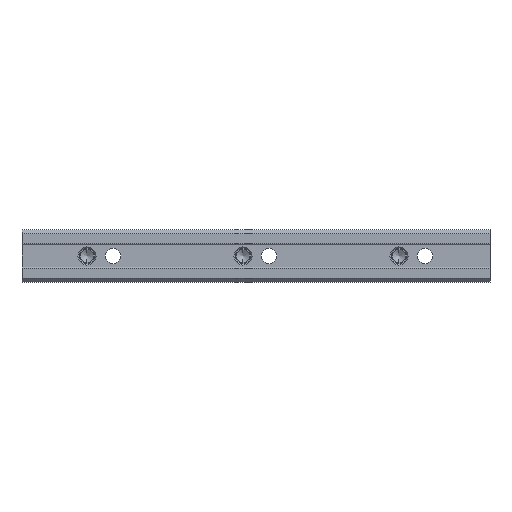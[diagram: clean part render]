
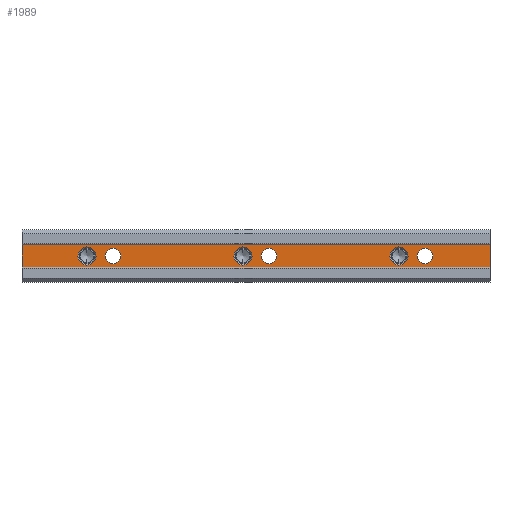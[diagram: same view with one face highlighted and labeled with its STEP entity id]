
A CAD part, front view. The second image highlights one B-rep face of the part: STEP entity #1989.
In plain terms, the highlighted planar face has unit normal (0, -1, 0).
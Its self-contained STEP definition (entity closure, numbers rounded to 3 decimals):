
#14 = CIRCLE ( 'NONE', #1023, 3. ) ;
#22 = EDGE_LOOP ( 'NONE', ( #1541, #1670 ) ) ;
#28 = ORIENTED_EDGE ( 'NONE', *, *, #1013, .T. ) ;
#32 = FACE_BOUND ( 'NONE', #1594, .T. ) ;
#36 = CARTESIAN_POINT ( 'NONE',  ( 0., 0.5, -4.25 ) ) ;
#62 = VERTEX_POINT ( 'NONE', #341 ) ;
#69 = DIRECTION ( 'NONE',  ( 0., 0., 1. ) ) ;
#71 = EDGE_LOOP ( 'NONE', ( #183, #1786 ) ) ;
#96 = CARTESIAN_POINT ( 'NONE',  ( 85., 0.5, 0. ) ) ;
#154 = DIRECTION ( 'NONE',  ( 0., 0., 1. ) ) ;
#164 = DIRECTION ( 'NONE',  ( 0., 0., -1. ) ) ;
#169 = DIRECTION ( 'NONE',  ( 0., 0., 1. ) ) ;
#173 = ORIENTED_EDGE ( 'NONE', *, *, #1146, .T. ) ;
#183 = ORIENTED_EDGE ( 'NONE', *, *, #1216, .T. ) ;
#184 = AXIS2_PLACEMENT_3D ( 'NONE', #354, #1521, #213 ) ;
#187 = CARTESIAN_POINT ( 'NONE',  ( 180., 0.5, 4.25 ) ) ;
#188 = ORIENTED_EDGE ( 'NONE', *, *, #758, .T. ) ;
#203 = DIRECTION ( 'NONE',  ( 0., 0., 1. ) ) ;
#204 = VERTEX_POINT ( 'NONE', #873 ) ;
#213 = DIRECTION ( 'NONE',  ( 0., 0., 1. ) ) ;
#222 = EDGE_CURVE ( 'NONE', #730, #1682, #299, .T. ) ;
#224 = AXIS2_PLACEMENT_3D ( 'NONE', #96, #785, #2094 ) ;
#229 = VERTEX_POINT ( 'NONE', #1024 ) ;
#234 = LINE ( 'NONE', #1397, #964 ) ;
#237 = EDGE_LOOP ( 'NONE', ( #1154, #852 ) ) ;
#266 = VECTOR ( 'NONE', #1255, 1000. ) ;
#269 = AXIS2_PLACEMENT_3D ( 'NONE', #2088, #934, #596 ) ;
#270 = CARTESIAN_POINT ( 'NONE',  ( 155., 0.5, 0. ) ) ;
#282 = CARTESIAN_POINT ( 'NONE',  ( 95., 0.5, -3. ) ) ;
#296 = AXIS2_PLACEMENT_3D ( 'NONE', #187, #1528, #656 ) ;
#297 = ORIENTED_EDGE ( 'NONE', *, *, #561, .F. ) ;
#299 = CIRCLE ( 'NONE', #848, 3.5 ) ;
#323 = CIRCLE ( 'NONE', #570, 3. ) ;
#336 = CIRCLE ( 'NONE', #269, 3. ) ;
#341 = CARTESIAN_POINT ( 'NONE',  ( 0., 0.5, 4.25 ) ) ;
#354 = CARTESIAN_POINT ( 'NONE',  ( 85., 0.5, 0. ) ) ;
#356 = ORIENTED_EDGE ( 'NONE', *, *, #1838, .F. ) ;
#361 = CIRCLE ( 'NONE', #671, 3. ) ;
#362 = CIRCLE ( 'NONE', #224, 3.5 ) ;
#363 = PLANE ( 'NONE',  #296 ) ;
#392 = DIRECTION ( 'NONE',  ( 0., 0., 1. ) ) ;
#402 = AXIS2_PLACEMENT_3D ( 'NONE', #1011, #677, #154 ) ;
#413 = DIRECTION ( 'NONE',  ( 0., 0., -1. ) ) ;
#429 = ORIENTED_EDGE ( 'NONE', *, *, #822, .T. ) ;
#435 = CIRCLE ( 'NONE', #607, 3. ) ;
#458 = CARTESIAN_POINT ( 'NONE',  ( 180., 0.5, -4.25 ) ) ;
#479 = DIRECTION ( 'NONE',  ( 0., 1., 0. ) ) ;
#496 = CARTESIAN_POINT ( 'NONE',  ( 145., 0.5, 3.5 ) ) ;
#519 = CARTESIAN_POINT ( 'NONE',  ( 180., 0.5, 4.25 ) ) ;
#524 = FACE_BOUND ( 'NONE', #1731, .T. ) ;
#556 = DIRECTION ( 'NONE',  ( 0., 1., 0. ) ) ;
#561 = EDGE_CURVE ( 'NONE', #1007, #2090, #1565, .T. ) ;
#570 = AXIS2_PLACEMENT_3D ( 'NONE', #1667, #837, #203 ) ;
#596 = DIRECTION ( 'NONE',  ( 0., 0., 1. ) ) ;
#607 = AXIS2_PLACEMENT_3D ( 'NONE', #1230, #556, #1883 ) ;
#656 = DIRECTION ( 'NONE',  ( 0., 0., 1. ) ) ;
#667 = CARTESIAN_POINT ( 'NONE',  ( 25., 0.5, 0. ) ) ;
#671 = AXIS2_PLACEMENT_3D ( 'NONE', #1332, #1288, #1958 ) ;
#673 = EDGE_CURVE ( 'NONE', #1327, #2042, #336, .T. ) ;
#677 = DIRECTION ( 'NONE',  ( 0., 1., 0. ) ) ;
#730 = VERTEX_POINT ( 'NONE', #496 ) ;
#738 = CIRCLE ( 'NONE', #184, 3.5 ) ;
#758 = EDGE_CURVE ( 'NONE', #229, #1522, #361, .T. ) ;
#773 = VECTOR ( 'NONE', #828, 1000. ) ;
#785 = DIRECTION ( 'NONE',  ( 0., 1., 0. ) ) ;
#802 = CARTESIAN_POINT ( 'NONE',  ( 180., 0.5, 4.25 ) ) ;
#822 = EDGE_CURVE ( 'NONE', #1807, #2009, #1301, .T. ) ;
#828 = DIRECTION ( 'NONE',  ( -1., 0., 0. ) ) ;
#837 = DIRECTION ( 'NONE',  ( 0., 1., 0. ) ) ;
#848 = AXIS2_PLACEMENT_3D ( 'NONE', #1194, #1170, #392 ) ;
#852 = ORIENTED_EDGE ( 'NONE', *, *, #673, .T. ) ;
#869 = CARTESIAN_POINT ( 'NONE',  ( 35., 0.5, 3. ) ) ;
#873 = CARTESIAN_POINT ( 'NONE',  ( 180., 0.5, 4.25 ) ) ;
#934 = DIRECTION ( 'NONE',  ( 0., 1., 0. ) ) ;
#949 = CIRCLE ( 'NONE', #1017, 3. ) ;
#964 = VECTOR ( 'NONE', #413, 1000. ) ;
#988 = EDGE_LOOP ( 'NONE', ( #28, #297, #356, #173 ) ) ;
#992 = CARTESIAN_POINT ( 'NONE',  ( 95., 0.5, 3. ) ) ;
#1007 = VERTEX_POINT ( 'NONE', #1726 ) ;
#1011 = CARTESIAN_POINT ( 'NONE',  ( 145., 0.5, 0. ) ) ;
#1013 = EDGE_CURVE ( 'NONE', #62, #2090, #234, .T. ) ;
#1017 = AXIS2_PLACEMENT_3D ( 'NONE', #270, #1759, #1712 ) ;
#1023 = AXIS2_PLACEMENT_3D ( 'NONE', #2053, #1910, #69 ) ;
#1024 = CARTESIAN_POINT ( 'NONE',  ( 155., 0.5, 3. ) ) ;
#1043 = EDGE_CURVE ( 'NONE', #1841, #1500, #435, .T. ) ;
#1119 = EDGE_CURVE ( 'NONE', #2009, #1807, #2135, .T. ) ;
#1146 = EDGE_CURVE ( 'NONE', #204, #62, #1367, .T. ) ;
#1154 = ORIENTED_EDGE ( 'NONE', *, *, #2098, .T. ) ;
#1170 = DIRECTION ( 'NONE',  ( 0., 1., 0. ) ) ;
#1171 = EDGE_CURVE ( 'NONE', #1500, #1841, #323, .T. ) ;
#1194 = CARTESIAN_POINT ( 'NONE',  ( 145., 0.5, 0. ) ) ;
#1199 = DIRECTION ( 'NONE',  ( 0., 1., 0. ) ) ;
#1216 = EDGE_CURVE ( 'NONE', #1889, #1260, #738, .T. ) ;
#1230 = CARTESIAN_POINT ( 'NONE',  ( 95., 0.5, 0. ) ) ;
#1255 = DIRECTION ( 'NONE',  ( -1., 0., 0. ) ) ;
#1260 = VERTEX_POINT ( 'NONE', #1412 ) ;
#1288 = DIRECTION ( 'NONE',  ( 0., 1., 0. ) ) ;
#1301 = CIRCLE ( 'NONE', #1991, 3.5 ) ;
#1320 = CARTESIAN_POINT ( 'NONE',  ( 25., 0.5, -3.5 ) ) ;
#1325 = EDGE_CURVE ( 'NONE', #1522, #229, #949, .T. ) ;
#1327 = VERTEX_POINT ( 'NONE', #1398 ) ;
#1332 = CARTESIAN_POINT ( 'NONE',  ( 155., 0.5, 0. ) ) ;
#1340 = VECTOR ( 'NONE', #164, 1000. ) ;
#1367 = LINE ( 'NONE', #519, #773 ) ;
#1393 = ORIENTED_EDGE ( 'NONE', *, *, #1325, .T. ) ;
#1397 = CARTESIAN_POINT ( 'NONE',  ( 0., 0.5, 4.25 ) ) ;
#1398 = CARTESIAN_POINT ( 'NONE',  ( 35., 0.5, -3. ) ) ;
#1409 = CIRCLE ( 'NONE', #402, 3.5 ) ;
#1410 = CARTESIAN_POINT ( 'NONE',  ( 145., 0.5, -3.5 ) ) ;
#1412 = CARTESIAN_POINT ( 'NONE',  ( 85., 0.5, 3.5 ) ) ;
#1484 = FACE_BOUND ( 'NONE', #71, .T. ) ;
#1500 = VERTEX_POINT ( 'NONE', #282 ) ;
#1503 = ORIENTED_EDGE ( 'NONE', *, *, #222, .T. ) ;
#1521 = DIRECTION ( 'NONE',  ( 0., 1., 0. ) ) ;
#1522 = VERTEX_POINT ( 'NONE', #1627 ) ;
#1528 = DIRECTION ( 'NONE',  ( 0., 1., 0. ) ) ;
#1540 = AXIS2_PLACEMENT_3D ( 'NONE', #1867, #1199, #169 ) ;
#1541 = ORIENTED_EDGE ( 'NONE', *, *, #1043, .T. ) ;
#1565 = LINE ( 'NONE', #458, #266 ) ;
#1594 = EDGE_LOOP ( 'NONE', ( #2022, #1503 ) ) ;
#1608 = CARTESIAN_POINT ( 'NONE',  ( 25., 0.5, 3.5 ) ) ;
#1627 = CARTESIAN_POINT ( 'NONE',  ( 155., 0.5, -3. ) ) ;
#1667 = CARTESIAN_POINT ( 'NONE',  ( 95., 0.5, 0. ) ) ;
#1670 = ORIENTED_EDGE ( 'NONE', *, *, #1171, .T. ) ;
#1681 = FACE_BOUND ( 'NONE', #237, .T. ) ;
#1682 = VERTEX_POINT ( 'NONE', #1410 ) ;
#1712 = DIRECTION ( 'NONE',  ( 0., 0., 1. ) ) ;
#1726 = CARTESIAN_POINT ( 'NONE',  ( 180., 0.5, -4.25 ) ) ;
#1731 = EDGE_LOOP ( 'NONE', ( #188, #1393 ) ) ;
#1759 = DIRECTION ( 'NONE',  ( 0., 1., 0. ) ) ;
#1762 = EDGE_CURVE ( 'NONE', #1260, #1889, #362, .T. ) ;
#1786 = ORIENTED_EDGE ( 'NONE', *, *, #1762, .T. ) ;
#1807 = VERTEX_POINT ( 'NONE', #1608 ) ;
#1838 = EDGE_CURVE ( 'NONE', #204, #1007, #1954, .T. ) ;
#1841 = VERTEX_POINT ( 'NONE', #992 ) ;
#1853 = FACE_OUTER_BOUND ( 'NONE', #988, .T. ) ;
#1867 = CARTESIAN_POINT ( 'NONE',  ( 25., 0.5, 0. ) ) ;
#1883 = DIRECTION ( 'NONE',  ( 0., 0., 1. ) ) ;
#1889 = VERTEX_POINT ( 'NONE', #1979 ) ;
#1910 = DIRECTION ( 'NONE',  ( 0., 1., 0. ) ) ;
#1930 = ORIENTED_EDGE ( 'NONE', *, *, #1119, .T. ) ;
#1947 = DIRECTION ( 'NONE',  ( 0., 0., 1. ) ) ;
#1954 = LINE ( 'NONE', #802, #1340 ) ;
#1958 = DIRECTION ( 'NONE',  ( 0., 0., 1. ) ) ;
#1979 = CARTESIAN_POINT ( 'NONE',  ( 85., 0.5, -3.5 ) ) ;
#1982 = EDGE_CURVE ( 'NONE', #1682, #730, #1409, .T. ) ;
#1989 = ADVANCED_FACE ( 'NONE', ( #1484, #2155, #2018, #524, #1681, #1853, #32 ), #363, .F. ) ;
#1991 = AXIS2_PLACEMENT_3D ( 'NONE', #667, #479, #1947 ) ;
#2009 = VERTEX_POINT ( 'NONE', #1320 ) ;
#2018 = FACE_BOUND ( 'NONE', #22, .T. ) ;
#2022 = ORIENTED_EDGE ( 'NONE', *, *, #1982, .T. ) ;
#2032 = EDGE_LOOP ( 'NONE', ( #1930, #429 ) ) ;
#2042 = VERTEX_POINT ( 'NONE', #869 ) ;
#2053 = CARTESIAN_POINT ( 'NONE',  ( 35., 0.5, 0. ) ) ;
#2088 = CARTESIAN_POINT ( 'NONE',  ( 35., 0.5, 0. ) ) ;
#2090 = VERTEX_POINT ( 'NONE', #36 ) ;
#2094 = DIRECTION ( 'NONE',  ( 0., 0., 1. ) ) ;
#2098 = EDGE_CURVE ( 'NONE', #2042, #1327, #14, .T. ) ;
#2135 = CIRCLE ( 'NONE', #1540, 3.5 ) ;
#2155 = FACE_BOUND ( 'NONE', #2032, .T. ) ;
